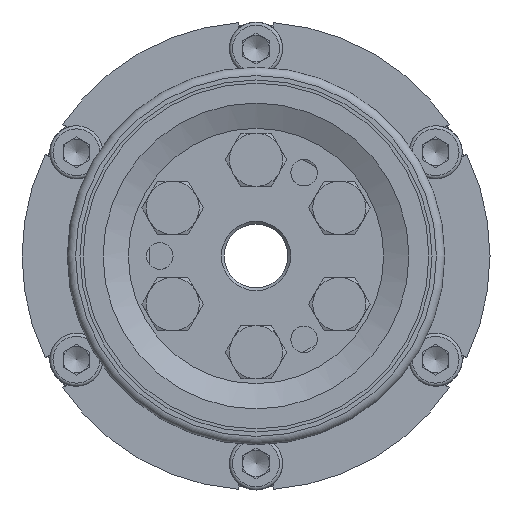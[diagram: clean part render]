
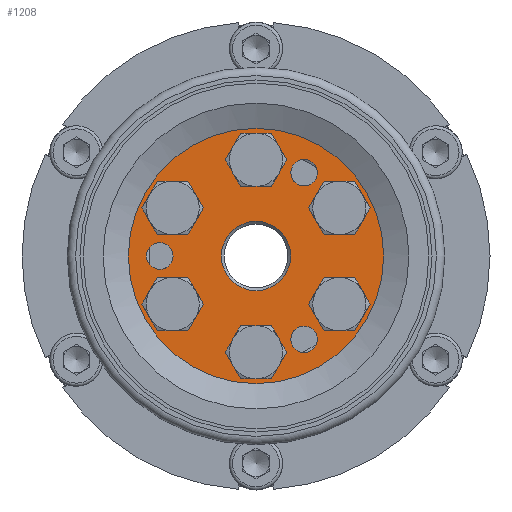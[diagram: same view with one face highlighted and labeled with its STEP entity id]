
A CAD part, left-side view. The second image highlights one B-rep face of the part: STEP entity #1208.
In plain terms, the highlighted planar face has unit normal (-1, 0, 0).
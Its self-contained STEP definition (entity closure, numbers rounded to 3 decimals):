
#1208 = ADVANCED_FACE( '', ( #2840, #2841, #2842, #2843, #2844, #2845, #2846, #2847, #2848, #2849, #2850 ), #2851, .T. );
#2840 = FACE_BOUND( '', #4896, .T. );
#2841 = FACE_OUTER_BOUND( '', #4897, .T. );
#2842 = FACE_BOUND( '', #4898, .T. );
#2843 = FACE_BOUND( '', #4899, .T. );
#2844 = FACE_BOUND( '', #4900, .T. );
#2845 = FACE_BOUND( '', #4901, .T. );
#2846 = FACE_BOUND( '', #4902, .T. );
#2847 = FACE_BOUND( '', #4903, .T. );
#2848 = FACE_BOUND( '', #4904, .T. );
#2849 = FACE_BOUND( '', #4905, .T. );
#2850 = FACE_BOUND( '', #4906, .T. );
#2851 = PLANE( '', #4907 );
#4896 = EDGE_LOOP( '', ( #8412 ) );
#4897 = EDGE_LOOP( '', ( #8413 ) );
#4898 = EDGE_LOOP( '', ( #8414 ) );
#4899 = EDGE_LOOP( '', ( #8415 ) );
#4900 = EDGE_LOOP( '', ( #8416 ) );
#4901 = EDGE_LOOP( '', ( #8417 ) );
#4902 = EDGE_LOOP( '', ( #8418 ) );
#4903 = EDGE_LOOP( '', ( #8419 ) );
#4904 = EDGE_LOOP( '', ( #8420 ) );
#4905 = EDGE_LOOP( '', ( #8421 ) );
#4906 = EDGE_LOOP( '', ( #8422 ) );
#4907 = AXIS2_PLACEMENT_3D( '', #8423, #8424, #8425 );
#8412 = ORIENTED_EDGE( '', *, *, #12031, .T. );
#8413 = ORIENTED_EDGE( '', *, *, #12119, .T. );
#8414 = ORIENTED_EDGE( '', *, *, #11815, .T. );
#8415 = ORIENTED_EDGE( '', *, *, #12120, .T. );
#8416 = ORIENTED_EDGE( '', *, *, #10925, .T. );
#8417 = ORIENTED_EDGE( '', *, *, #11707, .T. );
#8418 = ORIENTED_EDGE( '', *, *, #12121, .T. );
#8419 = ORIENTED_EDGE( '', *, *, #11587, .T. );
#8420 = ORIENTED_EDGE( '', *, *, #11378, .T. );
#8421 = ORIENTED_EDGE( '', *, *, #12026, .T. );
#8422 = ORIENTED_EDGE( '', *, *, #12122, .T. );
#8423 = CARTESIAN_POINT( '', ( -42.05, -2.75, 4.763 ) );
#8424 = DIRECTION( '', ( -1., 0., 0. ) );
#8425 = DIRECTION( '', ( 0., 1., 0. ) );
#10925 = EDGE_CURVE( '', #12872, #12872, #12873, .T. );
#11378 = EDGE_CURVE( '', #13642, #13642, #13643, .T. );
#11587 = EDGE_CURVE( '', #13971, #13971, #13972, .T. );
#11707 = EDGE_CURVE( '', #14162, #14162, #14163, .T. );
#11815 = EDGE_CURVE( '', #14321, #14321, #14322, .T. );
#12026 = EDGE_CURVE( '', #14628, #14628, #14629, .T. );
#12031 = EDGE_CURVE( '', #14634, #14634, #14635, .F. );
#12119 = EDGE_CURVE( '', #14753, #14753, #14754, .T. );
#12120 = EDGE_CURVE( '', #14755, #14755, #14756, .T. );
#12121 = EDGE_CURVE( '', #14757, #14757, #14758, .T. );
#12122 = EDGE_CURVE( '', #14759, #14759, #14760, .T. );
#12872 = VERTEX_POINT( '', #15801 );
#12873 = CIRCLE( '', #15802, 2.5 );
#13642 = VERTEX_POINT( '', #17573 );
#13643 = CIRCLE( '', #17574, 4.35 );
#13971 = VERTEX_POINT( '', #18079 );
#13972 = CIRCLE( '', #18080, 4.35 );
#14162 = VERTEX_POINT( '', #18548 );
#14163 = CIRCLE( '', #18549, 4.35 );
#14321 = VERTEX_POINT( '', #18836 );
#14322 = CIRCLE( '', #18837, 2.5 );
#14628 = VERTEX_POINT( '', #19409 );
#14629 = CIRCLE( '', #19410, 4.35 );
#14634 = VERTEX_POINT( '', #19415 );
#14635 = CIRCLE( '', #19416, 6.5 );
#14753 = VERTEX_POINT( '', #19616 );
#14754 = CIRCLE( '', #19617, 24. );
#14755 = VERTEX_POINT( '', #19618 );
#14756 = CIRCLE( '', #19619, 2.5 );
#14757 = VERTEX_POINT( '', #19620 );
#14758 = CIRCLE( '', #19621, 4.35 );
#14759 = VERTEX_POINT( '', #19622 );
#14760 = CIRCLE( '', #19623, 4.35 );
#15801 = CARTESIAN_POINT( '', ( -42.05, 18.1, -2.5 ) );
#15802 = AXIS2_PLACEMENT_3D( '', #21451, #21452, #21453 );
#17573 = CARTESIAN_POINT( '', ( -42.05, -15.675, -4.7 ) );
#17574 = AXIS2_PLACEMENT_3D( '', #22055, #22056, #22057 );
#18079 = CARTESIAN_POINT( '', ( -42.05, -15.675, 13.4 ) );
#18080 = AXIS2_PLACEMENT_3D( '', #22350, #22351, #22352 );
#18548 = CARTESIAN_POINT( '', ( -42.05, 0., 22.45 ) );
#18549 = AXIS2_PLACEMENT_3D( '', #22482, #22483, #22484 );
#18836 = CARTESIAN_POINT( '', ( -42.05, -11.215, -14.425 ) );
#18837 = AXIS2_PLACEMENT_3D( '', #22621, #22622, #22623 );
#19409 = CARTESIAN_POINT( '', ( -42.05, 0., -13.75 ) );
#19410 = AXIS2_PLACEMENT_3D( '', #22884, #22885, #22886 );
#19415 = CARTESIAN_POINT( '', ( -42.05, 0., 6.5 ) );
#19416 = AXIS2_PLACEMENT_3D( '', #22890, #22891, #22892 );
#19616 = CARTESIAN_POINT( '', ( -42.05, -12., 20.785 ) );
#19617 = AXIS2_PLACEMENT_3D( '', #22990, #22991, #22992 );
#19618 = CARTESIAN_POINT( '', ( -42.05, -6.885, 16.925 ) );
#19619 = AXIS2_PLACEMENT_3D( '', #22993, #22994, #22995 );
#19620 = CARTESIAN_POINT( '', ( -42.05, 15.675, 13.4 ) );
#19621 = AXIS2_PLACEMENT_3D( '', #22996, #22997, #22998 );
#19622 = CARTESIAN_POINT( '', ( -42.05, 15.675, -4.7 ) );
#19623 = AXIS2_PLACEMENT_3D( '', #22999, #23000, #23001 );
#21451 = CARTESIAN_POINT( '', ( -42.05, 18.1, 0. ) );
#21452 = DIRECTION( '', ( 1., 0., 0. ) );
#21453 = DIRECTION( '', ( 0., 0., -1. ) );
#22055 = CARTESIAN_POINT( '', ( -42.05, -15.675, -9.05 ) );
#22056 = DIRECTION( '', ( 1., 0., 0. ) );
#22057 = DIRECTION( '', ( 0., 0., 1. ) );
#22350 = CARTESIAN_POINT( '', ( -42.05, -15.675, 9.05 ) );
#22351 = DIRECTION( '', ( 1., 0., 0. ) );
#22352 = DIRECTION( '', ( 0., 0., 1. ) );
#22482 = CARTESIAN_POINT( '', ( -42.05, 0., 18.1 ) );
#22483 = DIRECTION( '', ( 1., 0., 0. ) );
#22484 = DIRECTION( '', ( 0., 0., 1. ) );
#22621 = CARTESIAN_POINT( '', ( -42.05, -9.05, -15.675 ) );
#22622 = DIRECTION( '', ( 1., 0., 0. ) );
#22623 = DIRECTION( '', ( 0., -0.866, 0.5 ) );
#22884 = CARTESIAN_POINT( '', ( -42.05, 0., -18.1 ) );
#22885 = DIRECTION( '', ( 1., 0., 0. ) );
#22886 = DIRECTION( '', ( 0., 0., 1. ) );
#22890 = CARTESIAN_POINT( '', ( -42.05, 0., 0. ) );
#22891 = DIRECTION( '', ( -1., 0., 0. ) );
#22892 = DIRECTION( '', ( 0., 0., 1. ) );
#22990 = CARTESIAN_POINT( '', ( -42.05, 0., 0. ) );
#22991 = DIRECTION( '', ( -1., 0., 0. ) );
#22992 = DIRECTION( '', ( 0., -0.5, 0.866 ) );
#22993 = CARTESIAN_POINT( '', ( -42.05, -9.05, 15.675 ) );
#22994 = DIRECTION( '', ( 1., 0., 0. ) );
#22995 = DIRECTION( '', ( 0., 0.866, 0.5 ) );
#22996 = CARTESIAN_POINT( '', ( -42.05, 15.675, 9.05 ) );
#22997 = DIRECTION( '', ( 1., 0., 0. ) );
#22998 = DIRECTION( '', ( 0., 0., 1. ) );
#22999 = CARTESIAN_POINT( '', ( -42.05, 15.675, -9.05 ) );
#23000 = DIRECTION( '', ( 1., 0., 0. ) );
#23001 = DIRECTION( '', ( 0., 0., 1. ) );
